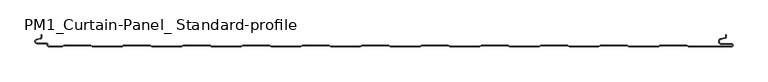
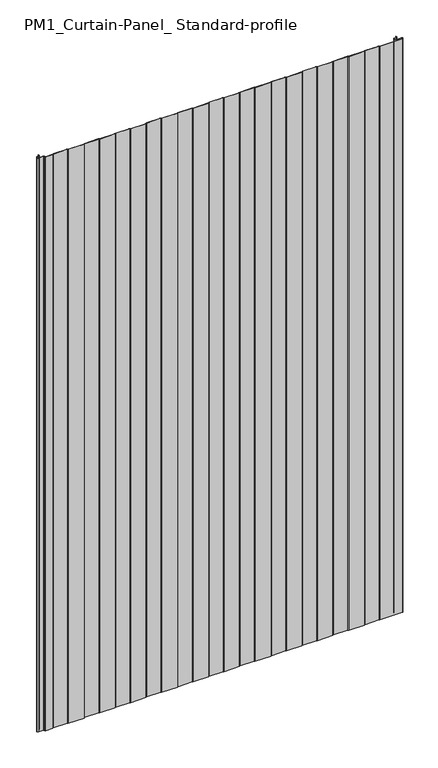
"""IFC4 building model written with IfcOpenShell, lengths in millimetres: plate geometry, PM1_Curtain-Panel_ Standard-profile : ACH_PM1_Acoustic-Sectioning-Panel_50M."""

from ifc_helpers import new_model, si_unit, frame, origin, place, context, project, spatial, polyline, circle_curve, source, transform, mapped, element, save
from ifc_brep_helpers import plane_surface, cylinder_surface, revolved_surface, advanced_brep


def pm1_curtain_panel_standard_profile_dad806f1(model_context):
    return source(origin(), model_context, "Body", "AdvancedBrep", [
        advanced_brep(
        [(-562.4, -50.0, 1945.7507136), (-539.3999999, -50.0, 1945.7507136), (-536.8019223, -48.5, 1945.7507136), (-492.0019247, -48.5, 1945.7507136), (-489.4038471, -50.0, 1945.7507136), (-439.3999999, -50.0, 1945.7507136), (-436.8019223, -48.5, 1945.7507136), (-392.0019247, -48.5, 1945.7507136), (-389.4038471, -50.0, 1945.7507136), (-339.3999999, -50.0, 1945.7507136), (-336.8019223, -48.5, 1945.7507136), (-292.0019247, -48.5, 1945.7507136), (-289.4038471, -50.0, 1945.7507136), (-239.3999999, -50.0, 1945.7507136), (-236.8019223, -48.5, 1945.7507136), (-192.0019247, -48.5, 1945.7507136), (-189.4038471, -50.0, 1945.7507136), (-139.3999999, -50.0, 1945.7507136), (-136.8019223, -48.5, 1945.7507136), (-92.0019247, -48.5, 1945.7507136), (-89.4038471, -50.0, 1945.7507136), (-39.3999999, -50.0, 1945.7507136), (-36.8019223, -48.5, 1945.7507136), (7.9980753, -48.5, 1945.7507136), (10.5961529, -50.0, 1945.7507136), (60.6000001, -50.0, 1945.7507136), (63.1980777, -48.5, 1945.7507136), (107.9980753, -48.5, 1945.7507136), (110.5961529, -50.0, 1945.7507136), (160.6000001, -50.0, 1945.7507136), (163.1980777, -48.5, 1945.7507136), (207.9980753, -48.5, 1945.7507136), (210.5961529, -50.0, 1945.7507136), (260.6000001, -50.0, 1945.7507136), (263.1980777, -48.5, 1945.7507136), (307.9980753, -48.5, 1945.7507136), (310.5961529, -50.0, 1945.7507136), (360.6000001, -50.0, 1945.7507136), (363.1980777, -48.5, 1945.7507136), (407.9980753, -48.5, 1945.7507136), (410.5961529, -50.0, 1945.7507136), (460.6000001, -50.0, 1945.7507136), (463.1980777, -48.5, 1945.7507136), (507.9980753, -48.5, 1945.7507136), (510.5961529, -50.0, 1945.7507136), (583.1, -50.0, 1945.7507136), (585.6, -47.5, 1945.7507136), (583.1, -45.0, 1945.7507136), (566.1, -45.0, 1945.7507136), (565.4054075, -37.060769, 1945.7507136), (571.8514851, -35.924152, 1945.7507136), (574.0, -33.363652, 1945.7507136), (574.0, -30.0, 1945.7507136), (573.2, -30.0, 1945.7507136), (573.2, -33.363652, 1945.7507136), (571.7125666, -35.136306, 1945.7507136), (565.266489, -36.2729229, 1945.7507136), (566.1, -45.8, 1945.7507136), (583.1, -45.8, 1945.7507136), (583.1, -49.2, 1945.7507136), (510.8105122, -49.2, 1945.7507136), (508.2124346, -47.7, 1945.7507136), (462.9837184, -47.7, 1945.7507136), (460.3856408, -49.2, 1945.7507136), (410.8105122, -49.2, 1945.7507136), (408.2124346, -47.7, 1945.7507136), (362.9837184, -47.7, 1945.7507136), (360.3856408, -49.2, 1945.7507136), (310.8105122, -49.2, 1945.7507136), (308.2124346, -47.7, 1945.7507136), (262.9837184, -47.7, 1945.7507136), (260.3856408, -49.2, 1945.7507136), (210.8105122, -49.2, 1945.7507136), (208.2124346, -47.7, 1945.7507136), (162.9837184, -47.7, 1945.7507136), (160.3856408, -49.2, 1945.7507136), (110.8105122, -49.2, 1945.7507136), (108.2124346, -47.7, 1945.7507136), (62.9837184, -47.7, 1945.7507136), (60.3856408, -49.2, 1945.7507136), (10.8105122, -49.2, 1945.7507136), (8.2124346, -47.7, 1945.7507136), (-37.0162816, -47.7, 1945.7507136), (-39.6143592, -49.2, 1945.7507136), (-89.1894878, -49.2, 1945.7507136), (-91.7875654, -47.7, 1945.7507136), (-137.0162816, -47.7, 1945.7507136), (-139.6143592, -49.2, 1945.7507136), (-189.1894878, -49.2, 1945.7507136), (-191.7875654, -47.7, 1945.7507136), (-237.0162816, -47.7, 1945.7507136), (-239.6143592, -49.2, 1945.7507136), (-289.1894878, -49.2, 1945.7507136), (-291.7875654, -47.7, 1945.7507136), (-337.0162816, -47.7, 1945.7507136), (-339.6143592, -49.2, 1945.7507136), (-389.1894878, -49.2, 1945.7507136), (-391.7875654, -47.7, 1945.7507136), (-437.0162816, -47.7, 1945.7507136), (-439.6143592, -49.2, 1945.7507136), (-489.1894878, -49.2, 1945.7507136), (-491.7875654, -47.7, 1945.7507136), (-537.0162816, -47.7, 1945.7507136), (-539.6143592, -49.2, 1945.7507136), (-562.4, -49.2, 1945.7507136), (-563.6, -48.0, 1945.7507136), (-563.6, -46.6, 1945.7507136), (-566.4, -43.8, 1945.7507136), (-581.9, -43.8, 1945.7507136), (-582.529863, -38.2717638, 1945.7507136), (-576.370137, -36.849679, 1945.7507136), (-574.2, -34.121443, 1945.7507136), (-574.2, -30.0, 1945.7507136), (-575.0, -30.0, 1945.7507136), (-575.0, -34.121443, 1945.7507136), (-576.5500978, -36.0701831, 1945.7507136), (-582.7098239, -37.492268, 1945.7507136), (-581.9, -44.6, 1945.7507136), (-566.4, -44.6, 1945.7507136), (-564.4, -46.6, 1945.7507136), (-564.4, -48.0, 1945.7507136), (-562.4, -50.0, 0.0), (-564.4, -48.0, 0.0), (-564.4, -46.6, 0.0), (-566.4, -44.6, 0.0), (-581.9, -44.6, 0.0), (-582.7098239, -37.4922678, 0.0), (-576.5500979, -36.070183, 0.0), (-575.0, -34.121443, 0.0), (-575.0, -30.0, 0.0), (-574.2, -30.0, 0.0), (-574.2, -34.121443, 0.0), (-576.370137, -36.8496792, 0.0), (-582.529863, -38.271764, 0.0), (-581.9, -43.8, 0.0), (-566.4, -43.8, 0.0), (-563.6, -46.6, 0.0), (-563.6, -48.0, 0.0), (-562.4, -49.2, 0.0), (-539.6143592, -49.2, 0.0), (-537.0162816, -47.7, 0.0), (-491.7875654, -47.7, 0.0), (-489.1894878, -49.2, 0.0), (-439.6143592, -49.2, 0.0), (-437.0162816, -47.7, 0.0), (-391.7875654, -47.7, 0.0), (-389.1894878, -49.2, 0.0), (-339.6143592, -49.2, 0.0), (-337.0162816, -47.7, 0.0), (-291.7875654, -47.7, 0.0), (-289.1894878, -49.2, 0.0), (-239.6143592, -49.2, 0.0), (-237.0162816, -47.7, 0.0), (-191.7875654, -47.7, 0.0), (-189.1894878, -49.2, 0.0), (-139.6143592, -49.2, 0.0), (-137.0162816, -47.7, 0.0), (-91.7875654, -47.7, 0.0), (-89.1894878, -49.2, 0.0), (-39.6143592, -49.2, 0.0), (-37.0162816, -47.7, 0.0), (8.2124346, -47.7, 0.0), (10.8105122, -49.2, 0.0), (60.3856408, -49.2, 0.0), (62.9837184, -47.7, 0.0), (108.2124346, -47.7, 0.0), (110.8105122, -49.2, 0.0), (160.3856408, -49.2, 0.0), (162.9837184, -47.7, 0.0), (208.2124346, -47.7, 0.0), (210.8105122, -49.2, 0.0), (260.3856408, -49.2, 0.0), (262.9837184, -47.7, 0.0), (308.2124346, -47.7, 0.0), (310.8105122, -49.2, 0.0), (360.3856408, -49.2, 0.0), (362.9837184, -47.7, 0.0), (408.2124346, -47.7, 0.0), (410.8105122, -49.2, 0.0), (460.3856408, -49.2, 0.0), (462.9837184, -47.7, 0.0), (508.2124346, -47.7, 0.0), (510.8105122, -49.2, 0.0), (583.1, -49.2, 0.0), (583.1, -45.8, 0.0), (566.1, -45.8, 0.0), (565.266489, -36.2729227, 0.0), (571.7125666, -35.1363058, 0.0), (573.2, -33.363652, 0.0), (573.2, -30.0, 0.0), (574.0, -30.0, 0.0), (574.0, -33.363652, 0.0), (571.8514851, -35.9241522, 0.0), (565.4054075, -37.0607691, 0.0), (566.1, -45.0, 0.0), (583.1, -45.0, 0.0), (585.6, -47.5, 0.0), (583.1, -50.0, 0.0), (510.5961529, -50.0, 0.0), (507.9980753, -48.5, 0.0), (463.1980777, -48.5, 0.0), (460.6000001, -50.0, 0.0), (410.5961529, -50.0, 0.0), (407.9980753, -48.5, 0.0), (363.1980777, -48.5, 0.0), (360.6000001, -50.0, 0.0), (310.5961529, -50.0, 0.0), (307.9980753, -48.5, 0.0), (263.1980777, -48.5, 0.0), (260.6000001, -50.0, 0.0), (210.5961529, -50.0, 0.0), (207.9980753, -48.5, 0.0), (163.1980777, -48.5, 0.0), (160.6000001, -50.0, 0.0), (110.5961529, -50.0, 0.0), (107.9980753, -48.5, 0.0), (63.1980777, -48.5, 0.0), (60.6000001, -50.0, 0.0), (10.5961529, -50.0, 0.0), (7.9980753, -48.5, 0.0), (-36.8019223, -48.5, 0.0), (-39.3999999, -50.0, 0.0), (-89.4038471, -50.0, 0.0), (-92.0019247, -48.5, 0.0), (-136.8019223, -48.5, 0.0), (-139.3999999, -50.0, 0.0), (-189.4038471, -50.0, 0.0), (-192.0019247, -48.5, 0.0), (-236.8019223, -48.5, 0.0), (-239.3999999, -50.0, 0.0), (-289.4038471, -50.0, 0.0), (-292.0019247, -48.5, 0.0), (-336.8019223, -48.5, 0.0), (-339.3999999, -50.0, 0.0), (-389.4038471, -50.0, 0.0), (-392.0019247, -48.5, 0.0), (-436.8019223, -48.5, 0.0), (-439.3999999, -50.0, 0.0), (-489.4038471, -50.0, 0.0), (-492.0019247, -48.5, 0.0), (-536.8019223, -48.5, 0.0), (-539.3999999, -50.0, 0.0)],
        [
            (0, 1),
            (1, 2),
            (2, 3),
            (3, 4),
            (4, 5),
            (5, 6),
            (6, 7),
            (7, 8),
            (8, 9),
            (9, 10),
            (10, 11),
            (11, 12),
            (12, 13),
            (13, 14),
            (14, 15),
            (15, 16),
            (16, 17),
            (17, 18),
            (18, 19),
            (19, 20),
            (20, 21),
            (21, 22),
            (22, 23),
            (23, 24),
            (24, 25),
            (25, 26),
            (26, 27),
            (27, 28),
            (28, 29),
            (29, 30),
            (30, 31),
            (31, 32),
            (32, 33),
            (33, 34),
            (34, 35),
            (35, 36),
            (36, 37),
            (37, 38),
            (38, 39),
            (39, 40),
            (40, 41),
            (41, 42),
            (42, 43),
            (43, 44),
            (44, 45),
            (45, 46, circle_curve(frame((583.1, -47.5, 1945.7507136), z_axis=(0.0, 0.0, 1.0), x_axis=(1.0, 0.0, 0.0)), 2.5)),
            (46, 47, circle_curve(frame((583.1, -47.5, 1945.7507136), z_axis=(0.0, 0.0, 1.0), x_axis=(1.0, 0.0, 0.0)), 2.5)),
            (47, 48),
            (48, 49, circle_curve(frame((566.1, -41.0, 1945.7507136), z_axis=(0.0, 0.0, -1.0), x_axis=(1.0, 0.0, 0.0)), 4.0)),
            (49, 50),
            (50, 51, circle_curve(frame((571.4, -33.363652, 1945.7507136), z_axis=(0.0, 0.0, 1.0), x_axis=(1.0, 0.0, 0.0)), 2.6)),
            (51, 52),
            (52, 53),
            (53, 54),
            (54, 55, circle_curve(frame((571.4, -33.363652, 1945.7507136), z_axis=(0.0, 0.0, -1.0), x_axis=(1.0, 0.0, 0.0)), 1.8)),
            (55, 56),
            (56, 57, circle_curve(frame((566.1, -41.0, 1945.7507136), z_axis=(0.0, 0.0, 1.0), x_axis=(1.0, 0.0, 0.0)), 4.8)),
            (57, 58),
            (58, 59, circle_curve(frame((583.1, -47.5, 1945.7507136), z_axis=(0.0, 0.0, -1.0), x_axis=(1.0, 0.0, 0.0)), 1.7)),
            (59, 60),
            (60, 61),
            (61, 62),
            (62, 63),
            (63, 64),
            (64, 65),
            (65, 66),
            (66, 67),
            (67, 68),
            (68, 69),
            (69, 70),
            (70, 71),
            (71, 72),
            (72, 73),
            (73, 74),
            (74, 75),
            (75, 76),
            (76, 77),
            (77, 78),
            (78, 79),
            (79, 80),
            (80, 81),
            (81, 82),
            (82, 83),
            (83, 84),
            (84, 85),
            (85, 86),
            (86, 87),
            (87, 88),
            (88, 89),
            (89, 90),
            (90, 91),
            (91, 92),
            (92, 93),
            (93, 94),
            (94, 95),
            (95, 96),
            (96, 97),
            (97, 98),
            (98, 99),
            (99, 100),
            (100, 101),
            (101, 102),
            (102, 103),
            (103, 104),
            (104, 105, circle_curve(frame((-562.4, -48.0, 1945.7507136), z_axis=(0.0, 0.0, -1.0), x_axis=(1.0, 0.0, 0.0)), 1.2)),
            (105, 106),
            (106, 107, circle_curve(frame((-566.4, -46.6, 1945.7507136), z_axis=(0.0, 0.0, 1.0), x_axis=(1.0, 0.0, 0.0)), 2.8)),
            (107, 108),
            (108, 109, circle_curve(frame((-581.9, -41.0, 1945.7507136), z_axis=(0.0, 0.0, -1.0), x_axis=(1.0, 0.0, 0.0)), 2.8)),
            (109, 110),
            (110, 111, circle_curve(frame((-577.0, -34.121443, 1945.7507136), z_axis=(0.0, 0.0, 1.0), x_axis=(1.0, 0.0, 0.0)), 2.8)),
            (111, 112),
            (112, 113),
            (113, 114),
            (114, 115, circle_curve(frame((-577.0, -34.121443, 1945.7507136), z_axis=(0.0, 0.0, -1.0), x_axis=(1.0, 0.0, 0.0)), 2.0)),
            (115, 116),
            (116, 117, circle_curve(frame((-581.9, -41.0, 1945.7507136), z_axis=(0.0, 0.0, 1.0), x_axis=(1.0, 0.0, 0.0)), 3.6)),
            (117, 118),
            (118, 119, circle_curve(frame((-566.4, -46.6, 1945.7507136), z_axis=(0.0, 0.0, -1.0), x_axis=(1.0, 0.0, 0.0)), 2.0)),
            (119, 120),
            (120, 0, circle_curve(frame((-562.4, -48.0, 1945.7507136), z_axis=(0.0, 0.0, 1.0), x_axis=(1.0, 0.0, 0.0)), 2.0)),
            (121, 122, circle_curve(frame((-562.4, -48.0, 0.0), z_axis=(0.0, 0.0, -1.0), x_axis=(1.0, 0.0, 0.0)), 2.0)),
            (122, 123),
            (123, 124, circle_curve(frame((-566.4, -46.6, 0.0), z_axis=(0.0, 0.0, 1.0), x_axis=(1.0, 0.0, 0.0)), 2.0)),
            (124, 125),
            (125, 126, circle_curve(frame((-581.9, -41.0, 0.0), z_axis=(0.0, 0.0, -1.0), x_axis=(1.0, 0.0, 0.0)), 3.6)),
            (126, 127),
            (127, 128, circle_curve(frame((-577.0, -34.121443, 0.0), z_axis=(0.0, 0.0, 1.0), x_axis=(1.0, 0.0, 0.0)), 2.0)),
            (128, 129),
            (129, 130),
            (130, 131),
            (131, 132, circle_curve(frame((-577.0, -34.121443, 0.0), z_axis=(0.0, 0.0, -1.0), x_axis=(1.0, 0.0, 0.0)), 2.8)),
            (132, 133),
            (133, 134, circle_curve(frame((-581.9, -41.0, 0.0), z_axis=(0.0, 0.0, 1.0), x_axis=(1.0, 0.0, 0.0)), 2.8)),
            (134, 135),
            (135, 136, circle_curve(frame((-566.4, -46.6, 0.0), z_axis=(0.0, 0.0, -1.0), x_axis=(1.0, 0.0, 0.0)), 2.8)),
            (136, 137),
            (137, 138, circle_curve(frame((-562.4, -48.0, 0.0), z_axis=(0.0, 0.0, 1.0), x_axis=(1.0, 0.0, 0.0)), 1.2)),
            (138, 139),
            (139, 140),
            (140, 141),
            (141, 142),
            (142, 143),
            (143, 144),
            (144, 145),
            (145, 146),
            (146, 147),
            (147, 148),
            (148, 149),
            (149, 150),
            (150, 151),
            (151, 152),
            (152, 153),
            (153, 154),
            (154, 155),
            (155, 156),
            (156, 157),
            (157, 158),
            (158, 159),
            (159, 160),
            (160, 161),
            (161, 162),
            (162, 163),
            (163, 164),
            (164, 165),
            (165, 166),
            (166, 167),
            (167, 168),
            (168, 169),
            (169, 170),
            (170, 171),
            (171, 172),
            (172, 173),
            (173, 174),
            (174, 175),
            (175, 176),
            (176, 177),
            (177, 178),
            (178, 179),
            (179, 180),
            (180, 181),
            (181, 182),
            (182, 183),
            (183, 184, circle_curve(frame((583.1, -47.5, 0.0), z_axis=(0.0, 0.0, 1.0), x_axis=(1.0, 0.0, 0.0)), 1.7)),
            (184, 185),
            (185, 186, circle_curve(frame((566.1, -41.0, 0.0), z_axis=(0.0, 0.0, -1.0), x_axis=(1.0, 0.0, 0.0)), 4.8)),
            (186, 187),
            (187, 188, circle_curve(frame((571.4, -33.363652, 0.0), z_axis=(0.0, 0.0, 1.0), x_axis=(1.0, 0.0, 0.0)), 1.8)),
            (188, 189),
            (189, 190),
            (190, 191),
            (191, 192, circle_curve(frame((571.4, -33.363652, 0.0), z_axis=(0.0, 0.0, -1.0), x_axis=(1.0, 0.0, 0.0)), 2.6)),
            (192, 193),
            (193, 194, circle_curve(frame((566.1, -41.0, 0.0), z_axis=(0.0, 0.0, 1.0), x_axis=(1.0, 0.0, 0.0)), 4.0)),
            (194, 195),
            (195, 196, circle_curve(frame((583.1, -47.5, 0.0), z_axis=(0.0, 0.0, -1.0), x_axis=(1.0, 0.0, 0.0)), 2.5)),
            (196, 197, circle_curve(frame((583.1, -47.5, 0.0), z_axis=(0.0, 0.0, -1.0), x_axis=(1.0, 0.0, 0.0)), 2.5)),
            (197, 198),
            (198, 199),
            (199, 200),
            (200, 201),
            (201, 202),
            (202, 203),
            (203, 204),
            (204, 205),
            (205, 206),
            (206, 207),
            (207, 208),
            (208, 209),
            (209, 210),
            (210, 211),
            (211, 212),
            (212, 213),
            (213, 214),
            (214, 215),
            (215, 216),
            (216, 217),
            (217, 218),
            (218, 219),
            (219, 220),
            (220, 221),
            (221, 222),
            (222, 223),
            (223, 224),
            (224, 225),
            (225, 226),
            (226, 227),
            (227, 228),
            (228, 229),
            (229, 230),
            (230, 231),
            (231, 232),
            (232, 233),
            (233, 234),
            (234, 235),
            (235, 236),
            (236, 237),
            (237, 238),
            (238, 239),
            (239, 240),
            (240, 241),
            (241, 121),
            (0, 121),
            (241, 1),
            (240, 2),
            (239, 3),
            (238, 4),
            (237, 5),
            (236, 6),
            (235, 7),
            (234, 8),
            (233, 9),
            (232, 10),
            (231, 11),
            (230, 12),
            (229, 13),
            (228, 14),
            (227, 15),
            (226, 16),
            (225, 17),
            (224, 18),
            (223, 19),
            (222, 20),
            (221, 21),
            (220, 22),
            (219, 23),
            (218, 24),
            (217, 25),
            (216, 26),
            (215, 27),
            (214, 28),
            (213, 29),
            (212, 30),
            (211, 31),
            (210, 32),
            (209, 33),
            (208, 34),
            (207, 35),
            (206, 36),
            (205, 37),
            (204, 38),
            (203, 39),
            (202, 40),
            (201, 41),
            (200, 42),
            (199, 43),
            (198, 44),
            (197, 45),
            (195, 47),
            (194, 48),
            (193, 49),
            (192, 50),
            (191, 51),
            (190, 52),
            (189, 53),
            (188, 54),
            (187, 55),
            (186, 56),
            (185, 57),
            (184, 58),
            (183, 59),
            (182, 60),
            (181, 61),
            (180, 62),
            (179, 63),
            (178, 64),
            (177, 65),
            (176, 66),
            (175, 67),
            (174, 68),
            (173, 69),
            (172, 70),
            (171, 71),
            (170, 72),
            (169, 73),
            (168, 74),
            (167, 75),
            (166, 76),
            (165, 77),
            (164, 78),
            (163, 79),
            (162, 80),
            (161, 81),
            (160, 82),
            (159, 83),
            (158, 84),
            (157, 85),
            (156, 86),
            (155, 87),
            (154, 88),
            (153, 89),
            (152, 90),
            (151, 91),
            (150, 92),
            (149, 93),
            (148, 94),
            (147, 95),
            (146, 96),
            (145, 97),
            (144, 98),
            (143, 99),
            (142, 100),
            (141, 101),
            (140, 102),
            (139, 103),
            (138, 104),
            (137, 105),
            (136, 106),
            (135, 107),
            (134, 108),
            (133, 109),
            (132, 110),
            (131, 111),
            (130, 112),
            (129, 113),
            (128, 114),
            (127, 115),
            (126, 116),
            (125, 117),
            (124, 118),
            (123, 119),
            (122, 120),
        ],
        [
            plane_surface(frame((-575.0, -50.0, 1945.7507136), z_axis=(0.0, 0.0, 1.0), x_axis=(0.0, 1.0, 0.0))),
            plane_surface(frame((-575.0, -50.0, 0.0), z_axis=(0.0, 0.0, -1.0), x_axis=(0.0, 1.0, 0.0))),
            plane_surface(frame((-562.4, -50.0, 1945.7507136), z_axis=(0.0, -1.0, 0.0), x_axis=(0.0, 0.0, -1.0))),
            plane_surface(frame((-539.3999999, -50.0, 1945.7507136), z_axis=(0.49999979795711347, -0.8660255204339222, 0.0), x_axis=(0.0, 0.0, -1.0))),
            plane_surface(frame((-536.8019223, -48.5, 1945.7507136), z_axis=(0.0, -1.0, 0.0), x_axis=(0.0, 0.0, -1.0))),
            plane_surface(frame((-492.0019247, -48.5, 1945.7507136), z_axis=(-0.49999979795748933, -0.8660255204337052, 0.0), x_axis=(0.0, 0.0, -1.0))),
            plane_surface(frame((-489.4038471, -50.0, 1945.7507136), z_axis=(0.0, -1.0, 0.0), x_axis=(0.0, 0.0, -1.0))),
            plane_surface(frame((-439.3999999, -50.0, 1945.7507136), z_axis=(0.49999979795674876, -0.8660255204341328, 0.0), x_axis=(0.0, 0.0, -1.0))),
            plane_surface(frame((-436.8019223, -48.5, 1945.7507136), z_axis=(0.0, -1.0, 0.0), x_axis=(0.0, 0.0, -1.0))),
            plane_surface(frame((-392.0019247, -48.5, 1945.7507136), z_axis=(-0.4999997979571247, -0.8660255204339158, 0.0), x_axis=(0.0, 0.0, -1.0))),
            plane_surface(frame((-389.4038471, -50.0, 1945.7507136), z_axis=(0.0, -1.0, 0.0), x_axis=(0.0, 0.0, -1.0))),
            plane_surface(frame((-339.3999999, -50.0, 1945.7507136), z_axis=(0.49999979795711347, -0.8660255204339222, 0.0), x_axis=(0.0, 0.0, -1.0))),
            plane_surface(frame((-336.8019223, -48.5, 1945.7507136), z_axis=(0.0, -1.0, 0.0), x_axis=(0.0, 0.0, -1.0))),
            plane_surface(frame((-292.0019247, -48.5, 1945.7507136), z_axis=(-0.4999997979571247, -0.8660255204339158, 0.0), x_axis=(0.0, 0.0, -1.0))),
            plane_surface(frame((-289.4038471, -50.0, 1945.7507136), z_axis=(0.0, -1.0, 0.0), x_axis=(0.0, 0.0, -1.0))),
            plane_surface(frame((-239.3999999, -50.0, 1945.7507136), z_axis=(0.49999979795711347, -0.8660255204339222, 0.0), x_axis=(0.0, 0.0, -1.0))),
            plane_surface(frame((-236.8019223, -48.5, 1945.7507136), z_axis=(0.0, -1.0, 0.0), x_axis=(0.0, 0.0, -1.0))),
            plane_surface(frame((-192.0019247, -48.5, 1945.7507136), z_axis=(-0.49999979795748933, -0.8660255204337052, 0.0), x_axis=(0.0, 0.0, -1.0))),
            plane_surface(frame((-189.4038471, -50.0, 1945.7507136), z_axis=(0.0, -1.0, 0.0), x_axis=(0.0, 0.0, -1.0))),
            plane_surface(frame((-139.3999999, -50.0, 1945.7507136), z_axis=(0.49999979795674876, -0.8660255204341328, 0.0), x_axis=(0.0, 0.0, -1.0))),
            plane_surface(frame((-136.8019223, -48.5, 1945.7507136), z_axis=(0.0, -1.0, 0.0), x_axis=(0.0, 0.0, -1.0))),
            plane_surface(frame((-92.0019247, -48.5, 1945.7507136), z_axis=(-0.4999997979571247, -0.8660255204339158, 0.0), x_axis=(0.0, 0.0, -1.0))),
            plane_surface(frame((-89.4038471, -50.0, 1945.7507136), z_axis=(0.0, -1.0, 0.0), x_axis=(0.0, 0.0, -1.0))),
            plane_surface(frame((-39.3999999, -50.0, 1945.7507136), z_axis=(0.49999979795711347, -0.8660255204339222, 0.0), x_axis=(0.0, 0.0, -1.0))),
            plane_surface(frame((-36.8019223, -48.5, 1945.7507136), z_axis=(0.0, -1.0, 0.0), x_axis=(0.0, 0.0, -1.0))),
            plane_surface(frame((7.9980753, -48.5, 1945.7507136), z_axis=(-0.4999997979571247, -0.8660255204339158, 0.0), x_axis=(0.0, 0.0, -1.0))),
            plane_surface(frame((10.5961529, -50.0, 1945.7507136), z_axis=(0.0, -1.0, 0.0), x_axis=(0.0, 0.0, -1.0))),
            plane_surface(frame((60.6000001, -50.0, 1945.7507136), z_axis=(0.49999979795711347, -0.8660255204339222, 0.0), x_axis=(0.0, 0.0, -1.0))),
            plane_surface(frame((63.1980777, -48.5, 1945.7507136), z_axis=(0.0, -1.0, 0.0), x_axis=(0.0, 0.0, -1.0))),
            plane_surface(frame((107.9980753, -48.5, 1945.7507136), z_axis=(-0.49999979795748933, -0.8660255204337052, 0.0), x_axis=(0.0, 0.0, -1.0))),
            plane_surface(frame((110.5961529, -50.0, 1945.7507136), z_axis=(0.0, -1.0, 0.0), x_axis=(0.0, 0.0, -1.0))),
            plane_surface(frame((160.6000001, -50.0, 1945.7507136), z_axis=(0.49999979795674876, -0.8660255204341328, 0.0), x_axis=(0.0, 0.0, -1.0))),
            plane_surface(frame((163.1980777, -48.5, 1945.7507136), z_axis=(0.0, -1.0, 0.0), x_axis=(0.0, 0.0, -1.0))),
            plane_surface(frame((207.9980753, -48.5, 1945.7507136), z_axis=(-0.4999997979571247, -0.8660255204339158, 0.0), x_axis=(0.0, 0.0, -1.0))),
            plane_surface(frame((210.5961529, -50.0, 1945.7507136), z_axis=(0.0, -1.0, 0.0), x_axis=(0.0, 0.0, -1.0))),
            plane_surface(frame((260.6000001, -50.0, 1945.7507136), z_axis=(0.49999979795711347, -0.8660255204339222, 0.0), x_axis=(0.0, 0.0, -1.0))),
            plane_surface(frame((263.1980777, -48.5, 1945.7507136), z_axis=(0.0, -1.0, 0.0), x_axis=(0.0, 0.0, -1.0))),
            plane_surface(frame((307.9980753, -48.5, 1945.7507136), z_axis=(-0.4999997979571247, -0.8660255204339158, 0.0), x_axis=(0.0, 0.0, -1.0))),
            plane_surface(frame((310.5961529, -50.0, 1945.7507136), z_axis=(0.0, -1.0, 0.0), x_axis=(0.0, 0.0, -1.0))),
            plane_surface(frame((360.6000001, -50.0, 1945.7507136), z_axis=(0.49999979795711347, -0.8660255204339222, 0.0), x_axis=(0.0, 0.0, -1.0))),
            plane_surface(frame((363.1980777, -48.5, 1945.7507136), z_axis=(0.0, -1.0, 0.0), x_axis=(0.0, 0.0, -1.0))),
            plane_surface(frame((407.9980753, -48.5, 1945.7507136), z_axis=(-0.49999979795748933, -0.8660255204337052, 0.0), x_axis=(0.0, 0.0, -1.0))),
            plane_surface(frame((410.5961529, -50.0, 1945.7507136), z_axis=(0.0, -1.0, 0.0), x_axis=(0.0, 0.0, -1.0))),
            plane_surface(frame((460.6000001, -50.0, 1945.7507136), z_axis=(0.49999979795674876, -0.8660255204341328, 0.0), x_axis=(0.0, 0.0, -1.0))),
            plane_surface(frame((463.1980777, -48.5, 1945.7507136), z_axis=(0.0, -1.0, 0.0), x_axis=(0.0, 0.0, -1.0))),
            plane_surface(frame((507.9980753, -48.5, 1945.7507136), z_axis=(-0.4999997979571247, -0.8660255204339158, 0.0), x_axis=(0.0, 0.0, -1.0))),
            plane_surface(frame((560.890897, -50.0, 1945.7507136), z_axis=(0.0, -1.0, 0.0), x_axis=(0.0, 0.0, -1.0))),
            cylinder_surface(frame((583.1, -47.5, 1945.7507136), z_axis=(0.0, 0.0, 1.0), x_axis=(1.0, 0.0, 0.0)), 2.5),
            plane_surface(frame((583.1, -45.0, 1945.7507136), z_axis=(0.0, 1.0, 0.0), x_axis=(0.0, 0.0, -1.0))),
            revolved_surface(polyline([(570.1, -41.0, 0.0), (570.1, -41.0, 1945.7507136)]), (566.1, -41.0, 1945.7507136), (0.0, 0.0, -1.0)),
            plane_surface(frame((565.4054075, -37.0607691, 1945.7507136), z_axis=(0.17364813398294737, -0.9848077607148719, 0.0), x_axis=(0.0, 0.0, -1.0))),
            cylinder_surface(frame((571.4, -33.363652, 1945.7507136), z_axis=(0.0, 0.0, 1.0), x_axis=(1.0, 0.0, 0.0)), 2.6),
            plane_surface(frame((574.0, -33.363652, 1945.7507136), z_axis=(1.0, 0.0, 0.0), x_axis=(0.0, 0.0, -1.0))),
            plane_surface(frame((574.0, -30.0, 1945.7507136), z_axis=(0.0, 1.0, 0.0), x_axis=(0.0, 0.0, -1.0))),
            plane_surface(frame((573.2, -30.0, 1945.7507136), z_axis=(-1.0, 0.0, 0.0), x_axis=(0.0, 0.0, -1.0))),
            revolved_surface(polyline([(573.1999999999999, -33.363652, 0.0), (573.1999999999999, -33.363652, 1945.7507136)]), (571.4, -33.363652, 1945.7507136), (0.0, 0.0, -1.0)),
            plane_surface(frame((571.7125666, -35.1363058, 1945.7507136), z_axis=(-0.17364813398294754, 0.9848077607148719, 0.0), x_axis=(0.0, 0.0, -1.0))),
            cylinder_surface(frame((566.1, -41.0, 1945.7507136), z_axis=(0.0, 0.0, 1.0), x_axis=(1.0, 0.0, 0.0)), 4.8),
            plane_surface(frame((566.1, -45.8, 1945.7507136), z_axis=(0.0, -1.0, 0.0), x_axis=(0.0, 0.0, -1.0))),
            revolved_surface(polyline([(584.8000000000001, -47.5, 0.0), (584.8000000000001, -47.5, 1945.7507136)]), (583.1, -47.5, 1945.7507136), (0.0, 0.0, -1.0)),
            plane_surface(frame((560.890897, -49.2, 1945.7507136), z_axis=(0.0, 1.0, 0.0), x_axis=(0.0, 0.0, -1.0))),
            plane_surface(frame((510.8105122, -49.2, 1945.7507136), z_axis=(0.49999979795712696, 0.8660255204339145, 0.0), x_axis=(0.0, 0.0, -1.0))),
            plane_surface(frame((508.2124346, -47.7, 1945.7507136), z_axis=(0.0, 1.0, 0.0), x_axis=(0.0, 0.0, -1.0))),
            plane_surface(frame((462.9837184, -47.7, 1945.7507136), z_axis=(-0.4999997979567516, 0.8660255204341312, 0.0), x_axis=(0.0, 0.0, -1.0))),
            plane_surface(frame((460.3856408, -49.2, 1945.7507136), z_axis=(0.0, 1.0, 0.0), x_axis=(0.0, 0.0, -1.0))),
            plane_surface(frame((410.8105122, -49.2, 1945.7507136), z_axis=(0.4999997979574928, 0.8660255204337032, 0.0), x_axis=(0.0, 0.0, -1.0))),
            plane_surface(frame((408.2124346, -47.7, 1945.7507136), z_axis=(0.0, 1.0, 0.0), x_axis=(0.0, 0.0, -1.0))),
            plane_surface(frame((362.9837184, -47.7, 1945.7507136), z_axis=(-0.49999979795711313, 0.8660255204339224, 0.0), x_axis=(0.0, 0.0, -1.0))),
            plane_surface(frame((360.3856408, -49.2, 1945.7507136), z_axis=(0.0, 1.0, 0.0), x_axis=(0.0, 0.0, -1.0))),
            plane_surface(frame((310.8105122, -49.2, 1945.7507136), z_axis=(0.4999997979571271, 0.8660255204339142, 0.0), x_axis=(0.0, 0.0, -1.0))),
            plane_surface(frame((308.2124346, -47.7, 1945.7507136), z_axis=(0.0, 1.0, 0.0), x_axis=(0.0, 0.0, -1.0))),
            plane_surface(frame((262.9837184, -47.7, 1945.7507136), z_axis=(-0.49999979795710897, 0.8660255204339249, 0.0), x_axis=(0.0, 0.0, -1.0))),
            plane_surface(frame((260.3856408, -49.2, 1945.7507136), z_axis=(0.0, 1.0, 0.0), x_axis=(0.0, 0.0, -1.0))),
            plane_surface(frame((210.8105122, -49.2, 1945.7507136), z_axis=(0.4999997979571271, 0.8660255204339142, 0.0), x_axis=(0.0, 0.0, -1.0))),
            plane_surface(frame((208.2124346, -47.7, 1945.7507136), z_axis=(0.0, 1.0, 0.0), x_axis=(0.0, 0.0, -1.0))),
            plane_surface(frame((162.9837184, -47.7, 1945.7507136), z_axis=(-0.4999997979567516, 0.8660255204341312, 0.0), x_axis=(0.0, 0.0, -1.0))),
            plane_surface(frame((160.3856408, -49.2, 1945.7507136), z_axis=(0.0, 1.0, 0.0), x_axis=(0.0, 0.0, -1.0))),
            plane_surface(frame((110.8105122, -49.2, 1945.7507136), z_axis=(0.49999979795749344, 0.8660255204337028, 0.0), x_axis=(0.0, 0.0, -1.0))),
            plane_surface(frame((108.2124346, -47.7, 1945.7507136), z_axis=(0.0, 1.0, 0.0), x_axis=(0.0, 0.0, -1.0))),
            plane_surface(frame((62.9837184, -47.7, 1945.7507136), z_axis=(-0.49999979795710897, 0.8660255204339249, 0.0), x_axis=(0.0, 0.0, -1.0))),
            plane_surface(frame((60.3856408, -49.2, 1945.7507136), z_axis=(0.0, 1.0, 0.0), x_axis=(0.0, 0.0, -1.0))),
            plane_surface(frame((10.8105122, -49.2, 1945.7507136), z_axis=(0.4999997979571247, 0.8660255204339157, 0.0), x_axis=(0.0, 0.0, -1.0))),
            plane_surface(frame((8.2124346, -47.7, 1945.7507136), z_axis=(0.0, 1.0, 0.0), x_axis=(0.0, 0.0, -1.0))),
            plane_surface(frame((-37.0162816, -47.7, 1945.7507136), z_axis=(-0.49999979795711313, 0.8660255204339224, 0.0), x_axis=(0.0, 0.0, -1.0))),
            plane_surface(frame((-39.6143592, -49.2, 1945.7507136), z_axis=(0.0, 1.0, 0.0), x_axis=(0.0, 0.0, -1.0))),
            plane_surface(frame((-89.1894878, -49.2, 1945.7507136), z_axis=(0.4999997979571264, 0.8660255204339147, 0.0), x_axis=(0.0, 0.0, -1.0))),
            plane_surface(frame((-91.7875654, -47.7, 1945.7507136), z_axis=(0.0, 1.0, 0.0), x_axis=(0.0, 0.0, -1.0))),
            plane_surface(frame((-137.0162816, -47.7, 1945.7507136), z_axis=(-0.49999979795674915, 0.8660255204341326, 0.0), x_axis=(0.0, 0.0, -1.0))),
            plane_surface(frame((-139.6143592, -49.2, 1945.7507136), z_axis=(0.0, 1.0, 0.0), x_axis=(0.0, 0.0, -1.0))),
            plane_surface(frame((-189.1894878, -49.2, 1945.7507136), z_axis=(0.49999979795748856, 0.8660255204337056, 0.0), x_axis=(0.0, 0.0, -1.0))),
            plane_surface(frame((-191.7875654, -47.7, 1945.7507136), z_axis=(0.0, 1.0, 0.0), x_axis=(0.0, 0.0, -1.0))),
            plane_surface(frame((-237.0162816, -47.7, 1945.7507136), z_axis=(-0.4999997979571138, 0.866025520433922, 0.0), x_axis=(0.0, 0.0, -1.0))),
            plane_surface(frame((-239.6143592, -49.2, 1945.7507136), z_axis=(0.0, 1.0, 0.0), x_axis=(0.0, 0.0, -1.0))),
            plane_surface(frame((-289.1894878, -49.2, 1945.7507136), z_axis=(0.49999979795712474, 0.8660255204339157, 0.0), x_axis=(0.0, 0.0, -1.0))),
            plane_surface(frame((-291.7875654, -47.7, 1945.7507136), z_axis=(0.0, 1.0, 0.0), x_axis=(0.0, 0.0, -1.0))),
            plane_surface(frame((-337.0162816, -47.7, 1945.7507136), z_axis=(-0.49999979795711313, 0.8660255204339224, 0.0), x_axis=(0.0, 0.0, -1.0))),
            plane_surface(frame((-339.6143592, -49.2, 1945.7507136), z_axis=(0.0, 1.0, 0.0), x_axis=(0.0, 0.0, -1.0))),
            plane_surface(frame((-389.1894878, -49.2, 1945.7507136), z_axis=(0.49999979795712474, 0.8660255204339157, 0.0), x_axis=(0.0, 0.0, -1.0))),
            plane_surface(frame((-391.7875654, -47.7, 1945.7507136), z_axis=(0.0, 1.0, 0.0), x_axis=(0.0, 0.0, -1.0))),
            plane_surface(frame((-437.0162816, -47.7, 1945.7507136), z_axis=(-0.49999979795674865, 0.8660255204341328, 0.0), x_axis=(0.0, 0.0, -1.0))),
            plane_surface(frame((-439.6143592, -49.2, 1945.7507136), z_axis=(0.0, 1.0, 0.0), x_axis=(0.0, 0.0, -1.0))),
            plane_surface(frame((-489.1894878, -49.2, 1945.7507136), z_axis=(0.49999979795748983, 0.866025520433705, 0.0), x_axis=(0.0, 0.0, -1.0))),
            plane_surface(frame((-491.7875654, -47.7, 1945.7507136), z_axis=(0.0, 1.0, 0.0), x_axis=(0.0, 0.0, -1.0))),
            plane_surface(frame((-537.0162816, -47.7, 1945.7507136), z_axis=(-0.49999979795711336, 0.8660255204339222, 0.0), x_axis=(0.0, 0.0, -1.0))),
            plane_surface(frame((-539.6143592, -49.2, 1945.7507136), z_axis=(0.0, 1.0, 0.0), x_axis=(0.0, 0.0, -1.0))),
            revolved_surface(polyline([(-561.1999999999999, -48.0, 0.0), (-561.1999999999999, -48.0, 1945.7507136)]), (-562.4, -48.0, 1945.7507136), (0.0, 0.0, -1.0)),
            plane_surface(frame((-563.6, -48.0, 1945.7507136), z_axis=(1.0, 0.0, 0.0), x_axis=(0.0, 0.0, -1.0))),
            cylinder_surface(frame((-566.4, -46.6, 1945.7507136), z_axis=(0.0, 0.0, 1.0), x_axis=(1.0, 0.0, 0.0)), 2.8),
            plane_surface(frame((-566.4, -43.8, 1945.7507136), z_axis=(0.0, 1.0, 0.0), x_axis=(0.0, 0.0, -1.0))),
            revolved_surface(polyline([(-579.1, -41.0, 0.0), (-579.1, -41.0, 1945.7507136)]), (-581.9, -41.0, 1945.7507136), (0.0, 0.0, -1.0)),
            plane_surface(frame((-582.529863, -38.271764, 1945.7507136), z_axis=(0.2249510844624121, -0.9743700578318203, 0.0), x_axis=(0.0, 0.0, -1.0))),
            cylinder_surface(frame((-577.0, -34.121443, 1945.7507136), z_axis=(0.0, 0.0, 1.0), x_axis=(1.0, 0.0, 0.0)), 2.8),
            plane_surface(frame((-574.2, -34.121443, 1945.7507136), z_axis=(1.0, 0.0, 0.0), x_axis=(0.0, 0.0, -1.0))),
            plane_surface(frame((-574.2, -30.0, 1945.7507136), z_axis=(0.0, 1.0, 0.0), x_axis=(0.0, 0.0, -1.0))),
            plane_surface(frame((-575.0, -30.0, 1945.7507136), z_axis=(-1.0, 0.0, 0.0), x_axis=(0.0, 0.0, -1.0))),
            revolved_surface(polyline([(-575.0, -34.121443, 0.0), (-575.0, -34.121443, 1945.7507136)]), (-577.0, -34.121443, 1945.7507136), (0.0, 0.0, -1.0)),
            plane_surface(frame((-576.5500979, -36.070183, 1945.7507136), z_axis=(-0.22495108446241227, 0.9743700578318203, 0.0), x_axis=(0.0, 0.0, -1.0))),
            cylinder_surface(frame((-581.9, -41.0, 1945.7507136), z_axis=(0.0, 0.0, 1.0), x_axis=(1.0, 0.0, 0.0)), 3.6),
            plane_surface(frame((-581.9, -44.6, 1945.7507136), z_axis=(0.0, -1.0, 0.0), x_axis=(0.0, 0.0, -1.0))),
            revolved_surface(polyline([(-564.4, -46.6, 0.0), (-564.4, -46.6, 1945.7507136)]), (-566.4, -46.6, 1945.7507136), (0.0, 0.0, -1.0)),
            plane_surface(frame((-564.4, -46.6, 1945.7507136), z_axis=(-1.0, 0.0, 0.0), x_axis=(0.0, 0.0, -1.0))),
            cylinder_surface(frame((-562.4, -48.0, 1945.7507136), z_axis=(0.0, 0.0, 1.0), x_axis=(1.0, 0.0, 0.0)), 2.0),
        ],
        [
            (0, [[1, 2, 3, 4, 5, 6, 7, 8, 9, 10, 11, 12, 13, 14, 15, 16, 17, 18, 19, 20, 21, 22, 23, 24, 25, 26, 27, 28, 29, 30, 31, 32, 33, 34, 35, 36, 37, 38, 39, 40, 41, 42, 43, 44, 45, 46, 47, 48, 49, 50, 51, 52, 53, 54, 55, 56, 57, 58, 59, 60, 61, 62, 63, 64, 65, 66, 67, 68, 69, 70, 71, 72, 73, 74, 75, 76, 77, 78, 79, 80, 81, 82, 83, 84, 85, 86, 87, 88, 89, 90, 91, 92, 93, 94, 95, 96, 97, 98, 99, 100, 101, 102, 103, 104, 105, 106, 107, 108, 109, 110, 111, 112, 113, 114, 115, 116, 117, 118, 119, 120, 121]]),
            (1, [[122, 123, 124, 125, 126, 127, 128, 129, 130, 131, 132, 133, 134, 135, 136, 137, 138, 139, 140, 141, 142, 143, 144, 145, 146, 147, 148, 149, 150, 151, 152, 153, 154, 155, 156, 157, 158, 159, 160, 161, 162, 163, 164, 165, 166, 167, 168, 169, 170, 171, 172, 173, 174, 175, 176, 177, 178, 179, 180, 181, 182, 183, 184, 185, 186, 187, 188, 189, 190, 191, 192, 193, 194, 195, 196, 197, 198, 199, 200, 201, 202, 203, 204, 205, 206, 207, 208, 209, 210, 211, 212, 213, 214, 215, 216, 217, 218, 219, 220, 221, 222, 223, 224, 225, 226, 227, 228, 229, 230, 231, 232, 233, 234, 235, 236, 237, 238, 239, 240, 241, 242]]),
            (2, [[-1, 243, -242, 244]]),
            (3, [[-2, -244, -241, 245]]),
            (4, [[-3, -245, -240, 246]]),
            (5, [[-4, -246, -239, 247]]),
            (6, [[-5, -247, -238, 248]]),
            (7, [[-6, -248, -237, 249]]),
            (8, [[-7, -249, -236, 250]]),
            (9, [[-8, -250, -235, 251]]),
            (10, [[-9, -251, -234, 252]]),
            (11, [[-10, -252, -233, 253]]),
            (12, [[-11, -253, -232, 254]]),
            (13, [[-12, -254, -231, 255]]),
            (14, [[-13, -255, -230, 256]]),
            (15, [[-14, -256, -229, 257]]),
            (16, [[-15, -257, -228, 258]]),
            (17, [[-16, -258, -227, 259]]),
            (18, [[-17, -259, -226, 260]]),
            (19, [[-18, -260, -225, 261]]),
            (20, [[-19, -261, -224, 262]]),
            (21, [[-20, -262, -223, 263]]),
            (22, [[-21, -263, -222, 264]]),
            (23, [[-22, -264, -221, 265]]),
            (24, [[-23, -265, -220, 266]]),
            (25, [[-24, -266, -219, 267]]),
            (26, [[-25, -267, -218, 268]]),
            (27, [[-26, -268, -217, 269]]),
            (28, [[-27, -269, -216, 270]]),
            (29, [[-28, -270, -215, 271]]),
            (30, [[-29, -271, -214, 272]]),
            (31, [[-30, -272, -213, 273]]),
            (32, [[-31, -273, -212, 274]]),
            (33, [[-32, -274, -211, 275]]),
            (34, [[-33, -275, -210, 276]]),
            (35, [[-34, -276, -209, 277]]),
            (36, [[-35, -277, -208, 278]]),
            (37, [[-36, -278, -207, 279]]),
            (38, [[-37, -279, -206, 280]]),
            (39, [[-38, -280, -205, 281]]),
            (40, [[-39, -281, -204, 282]]),
            (41, [[-40, -282, -203, 283]]),
            (42, [[-41, -283, -202, 284]]),
            (43, [[-42, -284, -201, 285]]),
            (44, [[-43, -285, -200, 286]]),
            (45, [[-44, -286, -199, 287]]),
            (46, [[-45, -287, -198, 288]]),
            (47, [[-288, -197, -196, 289, -47, -46]]),
            (48, [[-48, -289, -195, 290]]),
            (49, [[-49, -290, -194, 291]]),
            (50, [[-50, -291, -193, 292]]),
            (51, [[-51, -292, -192, 293]]),
            (52, [[-52, -293, -191, 294]]),
            (53, [[-53, -294, -190, 295]]),
            (54, [[-54, -295, -189, 296]]),
            (55, [[-55, -296, -188, 297]]),
            (56, [[-56, -297, -187, 298]]),
            (57, [[-57, -298, -186, 299]]),
            (58, [[-58, -299, -185, 300]]),
            (59, [[-59, -300, -184, 301]]),
            (60, [[-60, -301, -183, 302]]),
            (61, [[-61, -302, -182, 303]]),
            (62, [[-62, -303, -181, 304]]),
            (63, [[-63, -304, -180, 305]]),
            (64, [[-64, -305, -179, 306]]),
            (65, [[-65, -306, -178, 307]]),
            (66, [[-66, -307, -177, 308]]),
            (67, [[-67, -308, -176, 309]]),
            (68, [[-68, -309, -175, 310]]),
            (69, [[-69, -310, -174, 311]]),
            (70, [[-70, -311, -173, 312]]),
            (71, [[-71, -312, -172, 313]]),
            (72, [[-72, -313, -171, 314]]),
            (73, [[-73, -314, -170, 315]]),
            (74, [[-74, -315, -169, 316]]),
            (75, [[-75, -316, -168, 317]]),
            (76, [[-76, -317, -167, 318]]),
            (77, [[-77, -318, -166, 319]]),
            (78, [[-78, -319, -165, 320]]),
            (79, [[-79, -320, -164, 321]]),
            (80, [[-80, -321, -163, 322]]),
            (81, [[-81, -322, -162, 323]]),
            (82, [[-82, -323, -161, 324]]),
            (83, [[-83, -324, -160, 325]]),
            (84, [[-84, -325, -159, 326]]),
            (85, [[-85, -326, -158, 327]]),
            (86, [[-86, -327, -157, 328]]),
            (87, [[-87, -328, -156, 329]]),
            (88, [[-88, -329, -155, 330]]),
            (89, [[-89, -330, -154, 331]]),
            (90, [[-90, -331, -153, 332]]),
            (91, [[-91, -332, -152, 333]]),
            (92, [[-92, -333, -151, 334]]),
            (93, [[-93, -334, -150, 335]]),
            (94, [[-94, -335, -149, 336]]),
            (95, [[-95, -336, -148, 337]]),
            (96, [[-96, -337, -147, 338]]),
            (97, [[-97, -338, -146, 339]]),
            (98, [[-98, -339, -145, 340]]),
            (99, [[-99, -340, -144, 341]]),
            (100, [[-100, -341, -143, 342]]),
            (101, [[-101, -342, -142, 343]]),
            (102, [[-102, -343, -141, 344]]),
            (103, [[-103, -344, -140, 345]]),
            (104, [[-104, -345, -139, 346]]),
            (105, [[-105, -346, -138, 347]]),
            (106, [[-106, -347, -137, 348]]),
            (107, [[-107, -348, -136, 349]]),
            (108, [[-108, -349, -135, 350]]),
            (109, [[-109, -350, -134, 351]]),
            (110, [[-110, -351, -133, 352]]),
            (111, [[-111, -352, -132, 353]]),
            (112, [[-112, -353, -131, 354]]),
            (113, [[-113, -354, -130, 355]]),
            (114, [[-114, -355, -129, 356]]),
            (115, [[-115, -356, -128, 357]]),
            (116, [[-116, -357, -127, 358]]),
            (117, [[-117, -358, -126, 359]]),
            (118, [[-118, -359, -125, 360]]),
            (119, [[-119, -360, -124, 361]]),
            (120, [[-120, -361, -123, 362]]),
            (121, [[-121, -362, -122, -243]]),
        ],
    ),
    ])


if __name__ == "__main__":
    model = new_model("IFC4")
    model_context = context("Model", 3, world=origin())
    ifc_project = project(units=[si_unit("LENGTHUNIT", "METRE", prefix="MILLI")], contexts=[model_context])
    site = spatial("IfcSite", under=ifc_project)
    building = spatial("IfcBuilding", under=site)
    placement = place(None, origin())
    pm1_curtain_panel_standard_profile_shape = pm1_curtain_panel_standard_profile_dad806f1(model_context)
    element("IfcPlate", 1, ObjectType="PM1_Curtain-Panel_ Standard-profile : ACH_PM1_Acoustic-Sectioning-Panel_50M", at=placement, inside=building, context=model_context, shape_type="MappedRepresentation", body=[
        mapped(pm1_curtain_panel_standard_profile_shape, transform((0.0, 0.0, 0.0), x_axis=(1.0, 0.0, 0.0), y_axis=(0.0, 1.0, 0.0), z_axis=(0.0, 0.0, 1.0))),
    ])
    save(model, "model.ifc")
